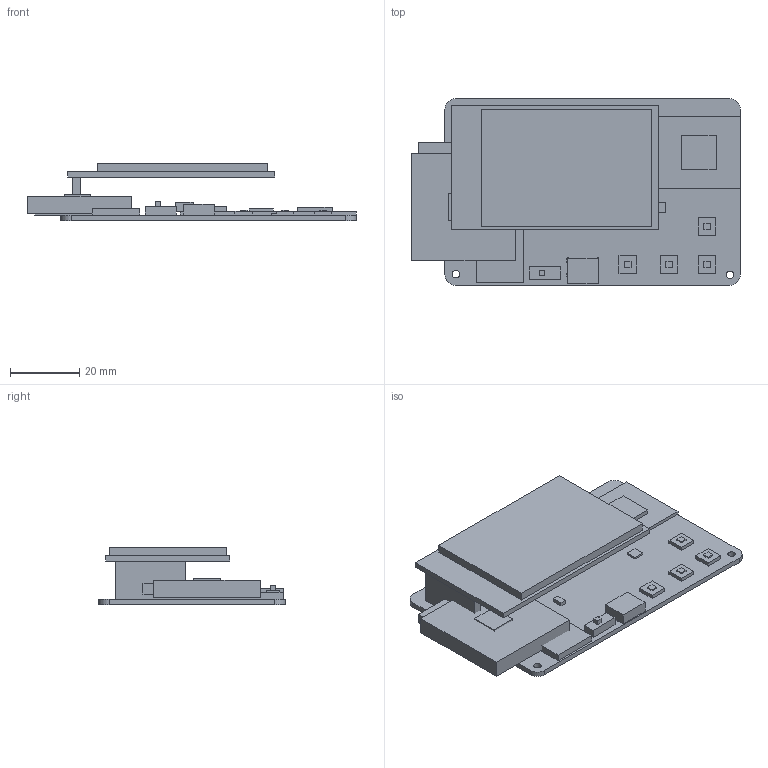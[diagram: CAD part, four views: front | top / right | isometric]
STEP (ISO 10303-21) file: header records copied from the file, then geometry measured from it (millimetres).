
FILE_DESCRIPTION(('KiCad electronic assembly'),'2;1');
FILE_NAME('tredder-revA-sim.step','2026-11-02T18:50:37',('Pcbnew'),( 'Kicad'),'Open CASCADE STEP processor 7.9','KiCad to STEP converter' ,'Unknown');
FILE_SCHEMA(('AUTOMOTIVE_DESIGN { 1 0 10303 214 1 1 1 1 }'));
Length unit declared in the file: millimetre
Products named in the file (22): tredder-revA-sim 1; j3_sim; u3_sim; u2_sim; usb_c_hro_type_c_31_m_12; sw_slide_ck_js202011jcqn; sw_tact_xkb_ts1187a; lcd_2in0_st7789_module_sim; jst_ph_s2b_ph_sm4_tb; lipo_503035; pico2w_sim; wallet_sim_PCB
Assembly tree (24 placements, depth 3):
  tredder-revA-sim 1
    j3_sim
      j3_sim
    u3_sim
      u3_sim
    u2_sim
      u2_sim
    usb_c_hro_type_c_31_m_12
      usb_c_hro_type_c_31_m_12
    sw_slide_ck_js202011jcqn
      sw_slide_ck_js202011jcqn
    sw_tact_xkb_ts1187a  x4
      sw_tact_xkb_ts1187a
    lcd_2in0_st7789_module_sim
      lcd_2in0_st7789_module_sim
    jst_ph_s2b_ph_sm4_tb
      jst_ph_s2b_ph_sm4_tb
    lipo_503035
      lipo_503035
    pico2w_sim
      pico2w_sim
    wallet_sim_PCB
Bounding box: 95.2 x 54 x 16.64 mm (x, y, z)
Volume: 22849.6 mm3; surface area: 27568.3 mm2
Topology: 27 solids, 27 shells, 202 faces, 444 edges, 296 vertices
Faces by surface type: plane 170, cylinder 32
Full cylindrical faces by diameter (mm): 0.65 x2, 0.8 x6, 1 x8, 2.2 x4
Entity records: 5217 total; most frequent: DIRECTION 818, CARTESIAN_POINT 811, ORIENTED_EDGE 744, EDGE_CURVE 372, LINE 308, VECTOR 308, AXIS2_PLACEMENT_3D 255, VERTEX_POINT 248
